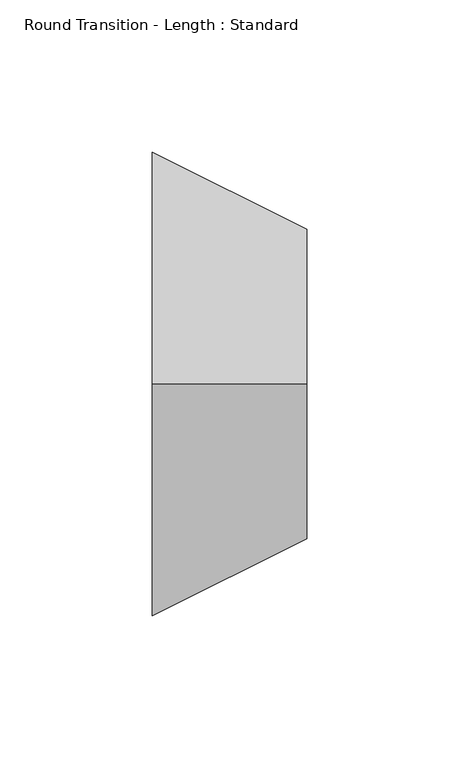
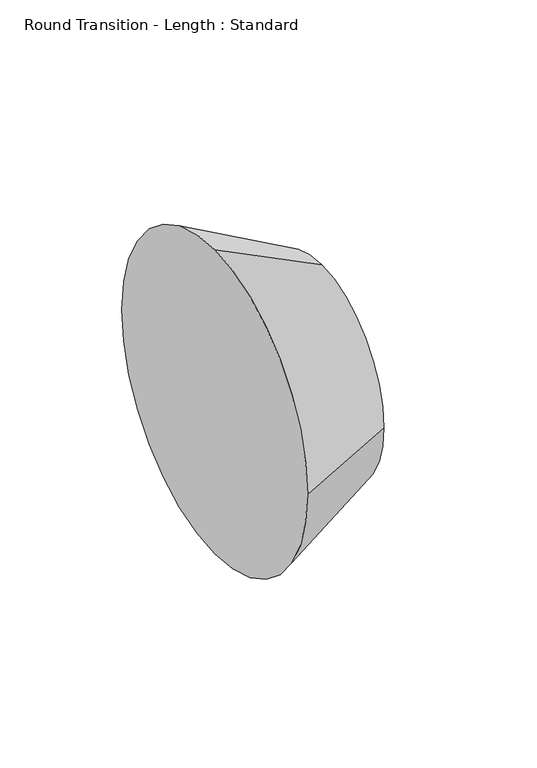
"""IFC4 building model written with IfcOpenShell, lengths in millimetres: duct fitting geometry, Round Transition - Length : Standard."""

from ifc_helpers import new_model, si_unit, frame, origin, place, context, project, spatial, polyline, circle_curve, source, transform, mapped, element, save
from ifc_brep_helpers import plane_surface, revolved_surface, advanced_brep


def round_transition_length_standard_e66f7e9a(model_context):
    return source(origin(), model_context, "Body", "AdvancedBrep", [
        advanced_brep(
        [(50.8, 50.8, 0.0), (50.8, 0.0, 50.8), (50.8, -50.8, 0.0), (50.8, 0.0, -50.8), (0.0, 76.2, 0.0), (0.0, 0.0, -76.2), (0.0, -76.2, 0.0), (0.0, 0.0, 76.2)],
        [
            (0, 1, circle_curve(frame((50.8, 0.0, 0.0), z_axis=(1.0, 0.0, 0.0), x_axis=(0.0, 1.0, 0.0)), 50.8)),
            (1, 2, circle_curve(frame((50.8, 0.0, 0.0), z_axis=(1.0, 0.0, 0.0), x_axis=(0.0, 0.0, 1.0)), 50.8)),
            (2, 3, circle_curve(frame((50.8, 0.0, 0.0), z_axis=(1.0, 0.0, 0.0), x_axis=(0.0, -1.0, 0.0)), 50.8)),
            (3, 0, circle_curve(frame((50.8, 0.0, 0.0), z_axis=(1.0, 0.0, 0.0), x_axis=(0.0, 0.0, -1.0)), 50.8)),
            (4, 5, circle_curve(frame((0.0, 0.0, 0.0), z_axis=(-1.0, 0.0, 0.0), x_axis=(0.0, 0.0, -1.0)), 76.2)),
            (5, 6, circle_curve(frame((0.0, 0.0, 0.0), z_axis=(-1.0, 0.0, 0.0), x_axis=(0.0, -1.0, 0.0)), 76.2)),
            (6, 7, circle_curve(frame((0.0, 0.0, 0.0), z_axis=(-1.0, 0.0, 0.0), x_axis=(0.0, 0.0, 1.0)), 76.2)),
            (7, 4, circle_curve(frame((0.0, 0.0, 0.0), z_axis=(-1.0, 0.0, 0.0), x_axis=(0.0, 1.0, 0.0)), 76.2)),
            (0, 4),
            (7, 1),
            (6, 2),
            (5, 3),
        ],
        [
            plane_surface(frame((50.8, 0.0, 0.0), z_axis=(1.0, 0.0, 0.0), x_axis=(0.0, 0.0, 1.0))),
            plane_surface(frame((0.0, 0.0, 0.0), z_axis=(-1.0, 0.0, 0.0), x_axis=(0.0, 0.0, 1.0))),
            revolved_surface(polyline([(50.8, 50.800000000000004, 0.0), (0.0, 76.2, 0.0)]), (152.4, 0.0, 0.0), (-1.0, 0.0, 0.0)),
            revolved_surface(polyline([(50.8, 0.0, 50.800000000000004), (0.0, 0.0, 76.2)]), (152.4, 0.0, 0.0), (-1.0, 0.0, 0.0)),
            revolved_surface(polyline([(50.8, -50.800000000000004, 0.0), (0.0, -76.2, 0.0)]), (152.4, 0.0, 0.0), (-1.0, 0.0, 0.0)),
            revolved_surface(polyline([(50.8, 0.0, -50.800000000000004), (0.0, 0.0, -76.2)]), (152.4, 0.0, 0.0), (-1.0, 0.0, 0.0)),
        ],
        [
            (0, [[1, 2, 3, 4]]),
            (1, [[5, 6, 7, 8]]),
            (2, [[-1, 9, -8, 10]]),
            (3, [[-2, -10, -7, 11]]),
            (4, [[-3, -11, -6, 12]]),
            (5, [[-4, -12, -5, -9]]),
        ],
    ),
    ])


if __name__ == "__main__":
    model = new_model("IFC4")
    model_context = context("Model", 3, world=origin())
    ifc_project = project(units=[si_unit("LENGTHUNIT", "METRE", prefix="MILLI")], contexts=[model_context])
    site = spatial("IfcSite", under=ifc_project)
    building = spatial("IfcBuilding", under=site)
    placement = place(None, origin())
    round_transition_length_standard_shape = round_transition_length_standard_e66f7e9a(model_context)
    element("IfcDuctFitting", 1, ObjectType="Round Transition - Length : Standard", at=placement, inside=building, context=model_context, shape_type="MappedRepresentation", body=[
        mapped(round_transition_length_standard_shape, transform((0.0, 0.0, 0.0), x_axis=(1.0, 0.0, 0.0), y_axis=(0.0, 1.0, 0.0), z_axis=(0.0, 0.0, 1.0))),
    ])
    save(model, "model.ifc")
